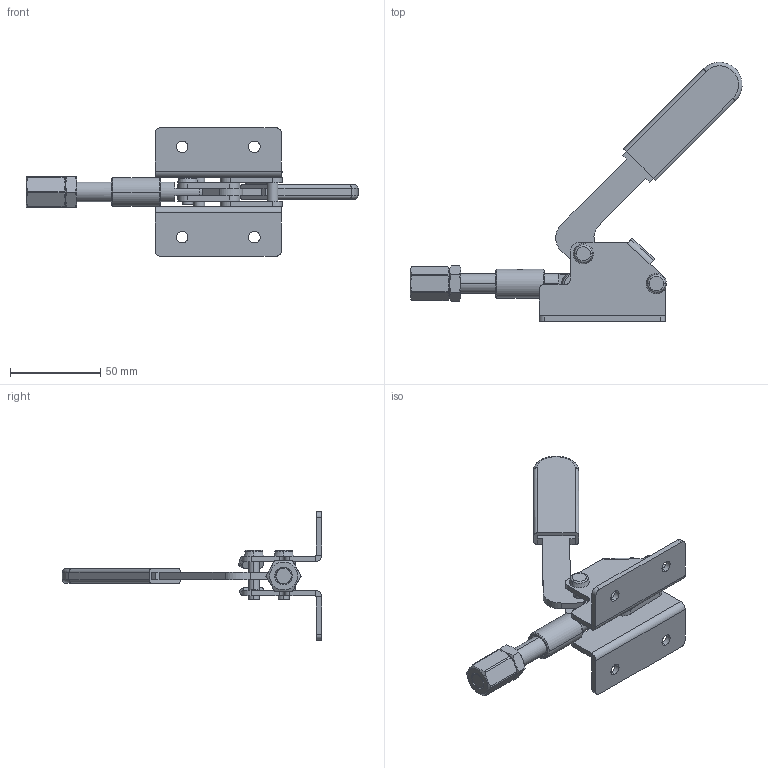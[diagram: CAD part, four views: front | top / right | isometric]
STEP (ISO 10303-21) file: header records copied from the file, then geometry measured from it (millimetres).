
FILE_DESCRIPTION (( 'STEP AP214' ), '1' );
FILE_NAME ('ISK-51B小0.STEP', '2015-07-01T01:32:11', ( '' ), ( '' ), 'SwSTEP 2.0', 'SolidWorks 2015', '' );
FILE_SCHEMA (( 'AUTOMOTIVE_DESIGN' ));
Length unit declared in the file: millimetre
Products named in the file (15): ISK-51B小0; cone head semi-tubuler rivets gb_GB_OTHERRIVETS_TYPE89 6X12; cone head semi-tubuler rivets gb_GB_OTHERRIVETS_TYPE89 6X24; H-Nut_M10L22; hexagon nut_3_jis_JIS B 1181 Hexagon nut - Class 3 Finished M10 --N; Grip; Pin; Link-S; Link-L; Arm; Handle; Base; Guide; Base-L; Base-R
Assembly tree (17 placements, depth 3):
  ISK-51B小0
    Base
      Base-R
      Base-L
      Guide
    Handle
    Arm
    Link-L  x2
    Link-S  x2
    Pin
    Grip
    hexagon nut_3_jis_JIS B 1181 Hexagon nut - Class 3 Finished M10 --N
    H-Nut_M10L22
    cone head semi-tubuler rivets gb_GB_OTHERRIVETS_TYPE89 6X24  x2
    cone head semi-tubuler rivets gb_GB_OTHERRIVETS_TYPE89 6X12
Bounding box: 183.83 x 143.49 x 71 mm (x, y, z)
Volume: 66180.8 mm3; surface area: 49151 mm2
Topology: 16 solids, 16 shells, 304 faces, 720 edges, 447 vertices
Faces by surface type: cylinder 122, plane 114, cone 48, torus 18, bspline 2
Entity records: 10194 total; most frequent: CARTESIAN_POINT 3229, DIRECTION 1390, ORIENTED_EDGE 1264, EDGE_CURVE 632, AXIS2_PLACEMENT_3D 546, VERTEX_POINT 394, EDGE_LOOP 308, VECTOR 298
